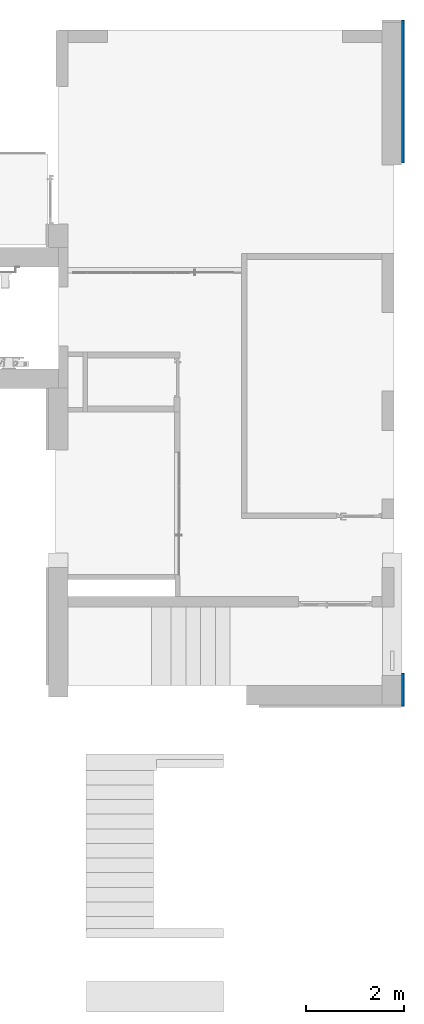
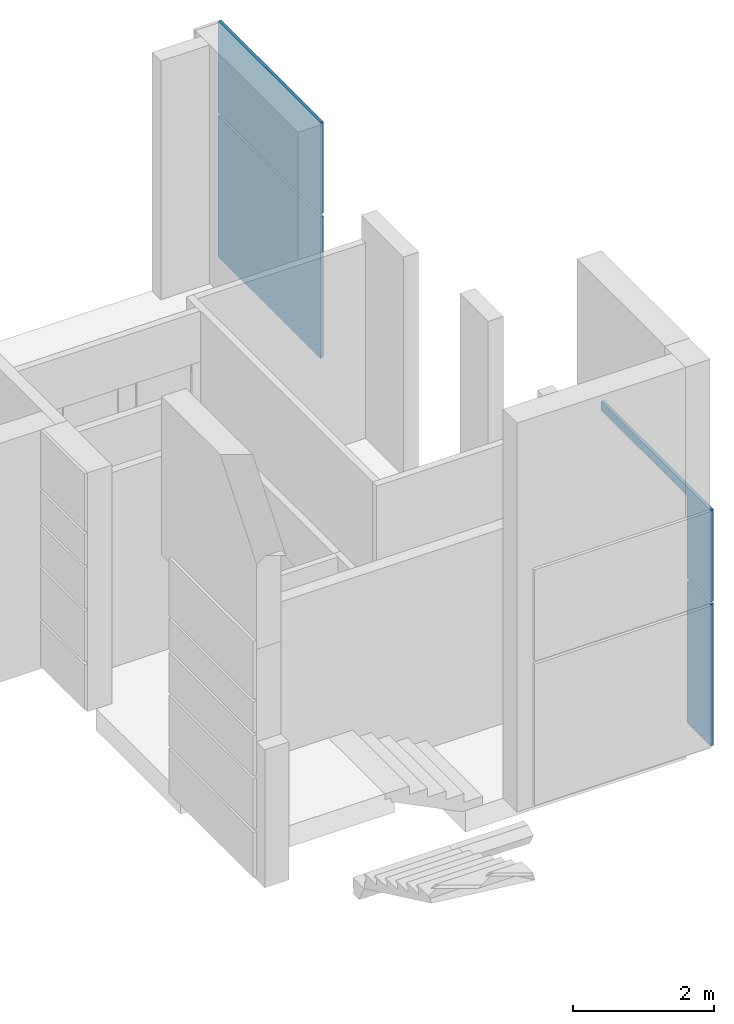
# One storey, part 6 of 15: 1 wall.
"""IFC2X3 building model written with IfcOpenShell, lengths in millimetres."""

from ifc_helpers import new_model, entity, si_unit, converted_unit, derived_unit, direction, frame, origin, place, context, subcontext, project, spatial, faceted_brep, material, type_object, element, save


model = new_model("IFC2X3")

# Units and contexts
model_context = context("Model", 3, precision=0.01, world=origin(), true_north=direction((6.12303176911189e-17, 1.0)))
body_context = subcontext(model_context, "Body", "Model", "MODEL_VIEW")
ifc_project = project(units=[si_unit("LENGTHUNIT", "METRE", prefix="MILLI"), si_unit("AREAUNIT", "SQUARE_METRE"), si_unit("VOLUMEUNIT", "CUBIC_METRE"), converted_unit("PLANEANGLEUNIT", "DEGREE", entity("IfcRatioMeasure", 0.0174532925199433), si_unit("PLANEANGLEUNIT", "RADIAN"), dimensions=[0, 0, 0, 0, 0, 0, 0]), si_unit("MASSUNIT", "GRAM", prefix="KILO"), derived_unit("MASSDENSITYUNIT", [(si_unit("MASSUNIT", "GRAM", prefix="KILO"), 1), (si_unit("LENGTHUNIT", "METRE"), -3)]), si_unit("TIMEUNIT", "SECOND"), si_unit("FREQUENCYUNIT", "HERTZ"), si_unit("THERMODYNAMICTEMPERATUREUNIT", "DEGREE_CELSIUS"), derived_unit("THERMALTRANSMITTANCEUNIT", [(si_unit("MASSUNIT", "GRAM", prefix="KILO"), 1), (si_unit("THERMODYNAMICTEMPERATUREUNIT", "KELVIN"), -1), (si_unit("TIMEUNIT", "SECOND"), -3)]), derived_unit("VOLUMETRICFLOWRATEUNIT", [(si_unit("LENGTHUNIT", "METRE"), 3), (si_unit("TIMEUNIT", "SECOND"), -1)]), si_unit("ELECTRICCURRENTUNIT", "AMPERE"), si_unit("ELECTRICVOLTAGEUNIT", "VOLT"), si_unit("POWERUNIT", "WATT"), si_unit("FORCEUNIT", "NEWTON", prefix="KILO"), si_unit("ILLUMINANCEUNIT", "LUX"), si_unit("LUMINOUSFLUXUNIT", "LUMEN"), si_unit("LUMINOUSINTENSITYUNIT", "CANDELA"), derived_unit("USERDEFINED", [(si_unit("MASSUNIT", "GRAM", prefix="KILO"), -1), (si_unit("LENGTHUNIT", "METRE"), -2), (si_unit("TIMEUNIT", "SECOND"), 3), (si_unit("LUMINOUSFLUXUNIT", "LUMEN"), 1)]), derived_unit("LINEARVELOCITYUNIT", [(si_unit("LENGTHUNIT", "METRE"), 1), (si_unit("TIMEUNIT", "SECOND"), -1)]), si_unit("PRESSUREUNIT", "PASCAL"), derived_unit("USERDEFINED", [(si_unit("LENGTHUNIT", "METRE"), -2), (si_unit("MASSUNIT", "GRAM", prefix="KILO"), 1), (si_unit("TIMEUNIT", "SECOND"), -2)])], contexts=[model_context])

# Site, building, storey
site_placement = place(None, frame((-151.875543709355, 2715.0, 0.0)))
site = spatial("IfcSite", under=ifc_project, at=site_placement, Name="Surface", CompositionType="ELEMENT")
building_placement = place(site_placement, origin())
building = spatial("IfcBuilding", under=site, at=building_placement, CompositionType="ELEMENT")
storey_placement = place(building_placement, frame((0.0, 0.0, 7670.0)))
storey = spatial("IfcBuildingStorey", under=building, at=storey_placement, Name="uus 3 korrus", CompositionType="ELEMENT", Elevation=7670.00000000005)

# Wall
ifc_material = material(Name="Steel/Aluminium")
wall_type = type_object("IfcWallType", Name="fassaad3.3:fassaad3.3", PredefinedType="NOTDEFINED", material=ifc_material)
wall_placement = place(storey_placement, frame((38795.6162681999, 12790.0442934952, 50.0), z_axis=(0.0, 0.0, 1.0), x_axis=(0.0, 1.0, 0.0)))
element("IfcWall", 1, at=wall_placement, inside=storey, type_object=wall_type, material=ifc_material, Name="fassaad3.3:fassaad3.3", ObjectType="fassaad3.3:fassaad3.3", context=body_context, shape_type="Brep", body=[
    faceted_brep([(0.0, -50.0, 2500.0), (666.73897598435, -50.0, 2500.0), (666.73897598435, -50.0, 3930.0), (3116.0, -50.0, 3930.0), (3116.0, -50.0, 4085.00001468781), (0.0, -50.0, 4085.00001468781), (0.0, 0.0, 2500.0), (666.73897598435, 0.0, 2500.0), (666.73897598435, 0.0, 3930.0), (3116.0, 0.0, 3930.0), (3116.0, 0.0, 4085.00001468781), (0.0, 0.0, 4085.00001468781)], [[[0, 1, 2, 3, 4, 5]], [[1, 0, 6, 7]], [[2, 1, 7, 8]], [[3, 2, 8, 9]], [[4, 3, 9, 10]], [[5, 4, 10, 11]], [[0, 5, 11, 6]], [[6, 11, 10, 9, 8, 7]]]),
    faceted_brep([(0.0, -50.0, 0.0), (0.0, -50.0, 2450.0), (0.0, 0.0, 2450.0), (0.0, 0.0, 0.0), (666.73897598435, -50.0, 0.0), (666.73897598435, 0.0, 0.0), (666.73897598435, -50.0, 2450.0), (666.73897598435, 0.0, 2450.0)], [[[0, 1, 2, 3]], [[4, 0, 3, 5]], [[6, 4, 5, 7]], [[1, 6, 7, 2]], [[7, 5, 3, 2]], [[6, 1, 0, 4]]]),
    faceted_brep([(13970.0, -50.0, 2450.00001468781), (13970.0, -50.0, 1.46878029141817e-05), (13970.0, 0.0, 1.46878029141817e-05), (13970.0, 0.0, 2450.00001468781), (11070.0448732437, -50.0, 1.46878029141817e-05), (11070.0448732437, -50.0, 2450.00001468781), (11070.0448732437, 0.0, 2450.00001468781), (11070.0448732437, 0.0, 1.46878029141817e-05)], [[[0, 1, 2, 3]], [[4, 5, 6, 7]], [[1, 4, 7, 2]], [[5, 0, 3, 6]], [[2, 7, 6, 3]], [[1, 0, 5, 4]]]),
    faceted_brep([(13970.0, 0.0, 2500.00001468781), (11070.0448732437, 0.0, 2500.00001468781), (11070.0448732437, 0.0, 4085.00001468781), (13970.0, 0.0, 4085.00001468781), (13970.0, -50.0, 4085.00001468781), (13970.0, -50.0, 2500.00001468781), (11070.0448732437, -50.0, 4085.00001468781), (11070.0448732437, -50.0, 2500.00001468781)], [[[0, 1, 2, 3]], [[4, 5, 0, 3]], [[6, 4, 3, 2]], [[7, 6, 2, 1]], [[5, 7, 1, 0]], [[5, 4, 6, 7]]]),
])

save(model, "model.ifc")
